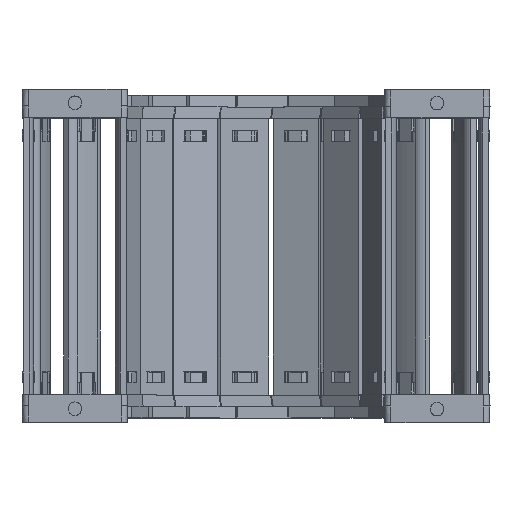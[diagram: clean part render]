
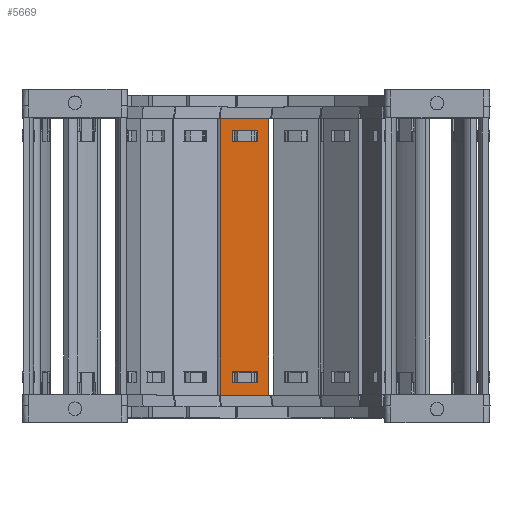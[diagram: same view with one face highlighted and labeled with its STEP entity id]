
A CAD part, top view. The second image highlights one B-rep face of the part: STEP entity #5669.
In plain terms, the highlighted planar face has unit normal (0.035, 0, 0.999) as drawn and (0, 1, 0) by its records, which use the part's own axes.
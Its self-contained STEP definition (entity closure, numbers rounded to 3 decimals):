
#5089=DIRECTION('',(0.,0.,1.));
#5090=VECTOR('',#5089,15.8);
#5091=CARTESIAN_POINT('',(75.74,1.5,-7.9));
#5092=LINE('',#5091,#5090);
#5093=DIRECTION('',(-1.,0.,0.));
#5094=VECTOR('',#5093,90.5);
#5095=CARTESIAN_POINT('',(75.74,1.5,7.9));
#5096=LINE('',#5095,#5094);
#5097=DIRECTION('',(0.,0.,-1.));
#5098=VECTOR('',#5097,15.8);
#5099=CARTESIAN_POINT('',(-14.76,1.5,7.9));
#5100=LINE('',#5099,#5098);
#5101=DIRECTION('',(1.,0.,0.));
#5102=VECTOR('',#5101,3.648);
#5103=CARTESIAN_POINT('',(68.122,1.5,4.075));
#5104=LINE('',#5103,#5102);
#5105=DIRECTION('',(0.,0.,-1.));
#5106=VECTOR('',#5105,8.15);
#5107=CARTESIAN_POINT('',(71.77,1.5,4.075));
#5108=LINE('',#5107,#5106);
#5109=DIRECTION('',(-1.,0.,0.));
#5110=VECTOR('',#5109,3.648);
#5111=CARTESIAN_POINT('',(71.77,1.5,-4.075));
#5112=LINE('',#5111,#5110);
#5113=DIRECTION('',(0.,0.,-1.));
#5114=VECTOR('',#5113,8.15);
#5115=CARTESIAN_POINT('',(-7.142,1.5,4.075));
#5116=LINE('',#5115,#5114);
#5117=DIRECTION('',(-1.,0.,0.));
#5118=VECTOR('',#5117,3.648);
#5119=CARTESIAN_POINT('',(-7.142,1.5,-4.075));
#5120=LINE('',#5119,#5118);
#5121=DIRECTION('',(0.,0.,1.));
#5122=VECTOR('',#5121,8.15);
#5123=CARTESIAN_POINT('',(-10.79,1.5,-4.075));
#5124=LINE('',#5123,#5122);
#5125=DIRECTION('',(1.,0.,0.));
#5126=VECTOR('',#5125,3.648);
#5127=CARTESIAN_POINT('',(-10.79,1.5,4.075));
#5128=LINE('',#5127,#5126);
#5133=DIRECTION('',(-1.,0.,0.));
#5134=VECTOR('',#5133,90.5);
#5135=CARTESIAN_POINT('',(75.74,1.5,-7.9));
#5136=LINE('',#5135,#5134);
#5254=DIRECTION('',(0.,0.,-1.));
#5255=VECTOR('',#5254,8.15);
#5256=CARTESIAN_POINT('',(68.122,1.5,4.075));
#5257=LINE('',#5256,#5255);
#5439=CARTESIAN_POINT('',(71.77,1.5,4.075));
#5440=VERTEX_POINT('',#5439);
#5441=CARTESIAN_POINT('',(68.122,1.5,4.075));
#5442=VERTEX_POINT('',#5441);
#5483=CARTESIAN_POINT('',(68.122,1.5,-4.075));
#5484=VERTEX_POINT('',#5483);
#5485=CARTESIAN_POINT('',(71.77,1.5,-4.075));
#5486=VERTEX_POINT('',#5485);
#5487=CARTESIAN_POINT('',(75.74,1.5,7.9));
#5489=VERTEX_POINT('',#5487);
#5491=CARTESIAN_POINT('',(75.74,1.5,-7.9));
#5492=VERTEX_POINT('',#5491);
#5515=CARTESIAN_POINT('',(-7.142,1.5,4.075));
#5516=CARTESIAN_POINT('',(-7.142,1.5,-4.075));
#5517=VERTEX_POINT('',#5515);
#5518=VERTEX_POINT('',#5516);
#5519=CARTESIAN_POINT('',(-10.79,1.5,-4.075));
#5520=VERTEX_POINT('',#5519);
#5521=CARTESIAN_POINT('',(-10.79,1.5,4.075));
#5522=VERTEX_POINT('',#5521);
#5523=CARTESIAN_POINT('',(-14.76,1.5,7.9));
#5524=VERTEX_POINT('',#5523);
#5527=CARTESIAN_POINT('',(-14.76,1.5,-7.9));
#5528=VERTEX_POINT('',#5527);
#5638=CARTESIAN_POINT('',(107.48,1.5,10.061));
#5639=DIRECTION('',(0.,-1.,0.));
#5640=DIRECTION('',(0.,0.,-1.));
#5641=AXIS2_PLACEMENT_3D('',#5638,#5639,#5640);
#5642=PLANE('',#5641);
#5643=ORIENTED_EDGE('',*,*,#5577,.T.);
#5644=ORIENTED_EDGE('',*,*,#5603,.T.);
#5645=ORIENTED_EDGE('',*,*,#5616,.T.);
#5647=ORIENTED_EDGE('',*,*,#5646,.F.);
#5648=EDGE_LOOP('',(#5643,#5644,#5645,#5647));
#5649=FACE_OUTER_BOUND('',#5648,.F.);
#5651=ORIENTED_EDGE('',*,*,#5650,.F.);
#5652=ORIENTED_EDGE('',*,*,#5540,.T.);
#5654=ORIENTED_EDGE('',*,*,#5653,.T.);
#5656=ORIENTED_EDGE('',*,*,#5655,.T.);
#5657=EDGE_LOOP('',(#5651,#5652,#5654,#5656));
#5658=FACE_BOUND('',#5657,.F.);
#5660=ORIENTED_EDGE('',*,*,#5659,.T.);
#5662=ORIENTED_EDGE('',*,*,#5661,.T.);
#5664=ORIENTED_EDGE('',*,*,#5663,.T.);
#5666=ORIENTED_EDGE('',*,*,#5665,.T.);
#5667=EDGE_LOOP('',(#5660,#5662,#5664,#5666));
#5668=FACE_BOUND('',#5667,.F.);
#5669=ADVANCED_FACE('',(#5649,#5658,#5668),#5642,.F.);
#5540=EDGE_CURVE('',#5442,#5440,#5104,.T.);
#5577=EDGE_CURVE('',#5492,#5489,#5092,.T.);
#5603=EDGE_CURVE('',#5489,#5524,#5096,.T.);
#5616=EDGE_CURVE('',#5524,#5528,#5100,.T.);
#5646=EDGE_CURVE('',#5492,#5528,#5136,.T.);
#5650=EDGE_CURVE('',#5442,#5484,#5257,.T.);
#5653=EDGE_CURVE('',#5440,#5486,#5108,.T.);
#5655=EDGE_CURVE('',#5486,#5484,#5112,.T.);
#5659=EDGE_CURVE('',#5517,#5518,#5116,.T.);
#5661=EDGE_CURVE('',#5518,#5520,#5120,.T.);
#5663=EDGE_CURVE('',#5520,#5522,#5124,.T.);
#5665=EDGE_CURVE('',#5522,#5517,#5128,.T.);
